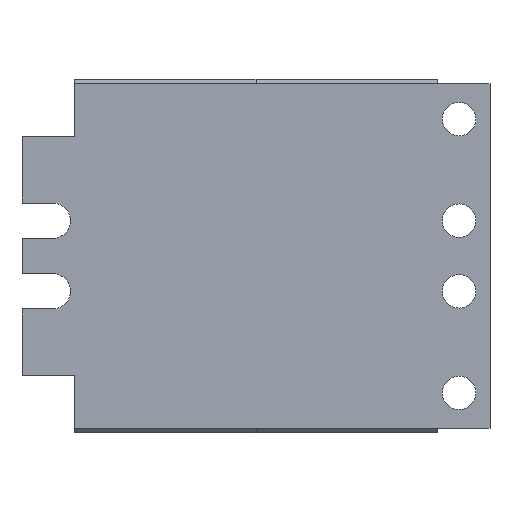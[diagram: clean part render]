
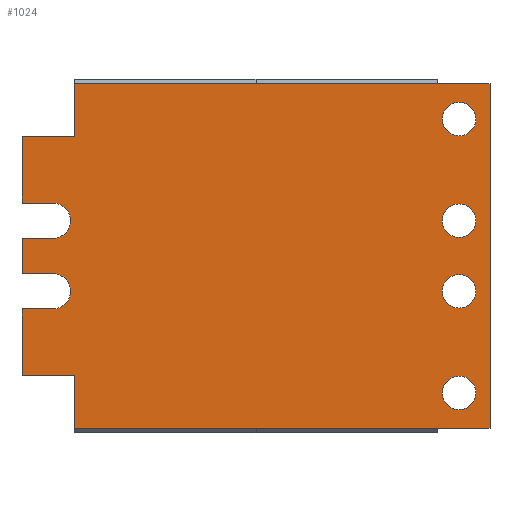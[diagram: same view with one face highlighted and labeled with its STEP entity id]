
A CAD part, front view. The second image highlights one B-rep face of the part: STEP entity #1024.
In plain terms, the highlighted planar face has unit normal (0, -1, 0).
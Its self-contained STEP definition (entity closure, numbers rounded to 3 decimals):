
#30=CIRCLE('',#1094,1.9);
#31=CIRCLE('',#1095,1.9);
#32=CIRCLE('',#1096,1.9);
#33=CIRCLE('',#1097,1.9);
#34=CIRCLE('',#1098,2.);
#35=CIRCLE('',#1099,2.);
#126=ORIENTED_EDGE('',*,*,#401,.F.);
#127=ORIENTED_EDGE('',*,*,#402,.F.);
#128=ORIENTED_EDGE('',*,*,#403,.F.);
#129=ORIENTED_EDGE('',*,*,#404,.F.);
#130=ORIENTED_EDGE('',*,*,#365,.T.);
#131=ORIENTED_EDGE('',*,*,#405,.F.);
#132=ORIENTED_EDGE('',*,*,#347,.F.);
#133=ORIENTED_EDGE('',*,*,#333,.T.);
#134=ORIENTED_EDGE('',*,*,#406,.F.);
#135=ORIENTED_EDGE('',*,*,#407,.F.);
#136=ORIENTED_EDGE('',*,*,#408,.F.);
#137=ORIENTED_EDGE('',*,*,#409,.T.);
#138=ORIENTED_EDGE('',*,*,#410,.F.);
#139=ORIENTED_EDGE('',*,*,#411,.F.);
#140=ORIENTED_EDGE('',*,*,#412,.F.);
#141=ORIENTED_EDGE('',*,*,#413,.T.);
#142=ORIENTED_EDGE('',*,*,#414,.F.);
#143=ORIENTED_EDGE('',*,*,#415,.F.);
#144=ORIENTED_EDGE('',*,*,#416,.F.);
#145=ORIENTED_EDGE('',*,*,#343,.T.);
#333=EDGE_CURVE('',#480,#479,#579,.T.);
#343=EDGE_CURVE('',#477,#489,#589,.T.);
#347=EDGE_CURVE('',#480,#492,#593,.T.);
#365=EDGE_CURVE('',#489,#508,#611,.T.);
#401=EDGE_CURVE('',#536,#536,#30,.T.);
#402=EDGE_CURVE('',#537,#537,#31,.T.);
#403=EDGE_CURVE('',#538,#538,#32,.T.);
#404=EDGE_CURVE('',#539,#539,#33,.T.);
#405=EDGE_CURVE('',#492,#508,#643,.T.);
#406=EDGE_CURVE('',#540,#479,#644,.T.);
#407=EDGE_CURVE('',#541,#540,#645,.T.);
#408=EDGE_CURVE('',#542,#541,#646,.T.);
#409=EDGE_CURVE('',#542,#543,#34,.T.);
#410=EDGE_CURVE('',#544,#543,#647,.T.);
#411=EDGE_CURVE('',#545,#544,#648,.T.);
#412=EDGE_CURVE('',#546,#545,#649,.T.);
#413=EDGE_CURVE('',#546,#547,#35,.T.);
#414=EDGE_CURVE('',#548,#547,#650,.T.);
#415=EDGE_CURVE('',#549,#548,#651,.T.);
#416=EDGE_CURVE('',#477,#549,#652,.T.);
#477=VERTEX_POINT('',#1415);
#479=VERTEX_POINT('',#1419);
#480=VERTEX_POINT('',#1421);
#489=VERTEX_POINT('',#1439);
#492=VERTEX_POINT('',#1448);
#508=VERTEX_POINT('',#1482);
#536=VERTEX_POINT('',#1551);
#537=VERTEX_POINT('',#1553);
#538=VERTEX_POINT('',#1555);
#539=VERTEX_POINT('',#1557);
#540=VERTEX_POINT('',#1560);
#541=VERTEX_POINT('',#1562);
#542=VERTEX_POINT('',#1564);
#543=VERTEX_POINT('',#1566);
#544=VERTEX_POINT('',#1568);
#545=VERTEX_POINT('',#1570);
#546=VERTEX_POINT('',#1572);
#547=VERTEX_POINT('',#1574);
#548=VERTEX_POINT('',#1576);
#549=VERTEX_POINT('',#1578);
#579=LINE('',#1420,#713);
#589=LINE('',#1440,#723);
#593=LINE('',#1447,#727);
#611=LINE('',#1483,#745);
#643=LINE('',#1558,#777);
#644=LINE('',#1559,#778);
#645=LINE('',#1561,#779);
#646=LINE('',#1563,#780);
#647=LINE('',#1567,#781);
#648=LINE('',#1569,#782);
#649=LINE('',#1571,#783);
#650=LINE('',#1575,#784);
#651=LINE('',#1577,#785);
#652=LINE('',#1579,#786);
#713=VECTOR('',#1154,1000.);
#723=VECTOR('',#1164,1000.);
#727=VECTOR('',#1170,1000.);
#745=VECTOR('',#1190,1000.);
#777=VECTOR('',#1246,1000.);
#778=VECTOR('',#1247,1000.);
#779=VECTOR('',#1248,1000.);
#780=VECTOR('',#1249,1000.);
#781=VECTOR('',#1252,1000.);
#782=VECTOR('',#1253,1000.);
#783=VECTOR('',#1254,1000.);
#784=VECTOR('',#1257,1000.);
#785=VECTOR('',#1258,1000.);
#786=VECTOR('',#1259,1000.);
#854=EDGE_LOOP('',(#126));
#855=EDGE_LOOP('',(#127));
#856=EDGE_LOOP('',(#128));
#857=EDGE_LOOP('',(#129));
#858=EDGE_LOOP('',(#130,#131,#132,#133,#134,#135,#136,#137,#138,#139,#140,
#141,#142,#143,#144,#145));
#918=FACE_BOUND('',#854,.T.);
#919=FACE_BOUND('',#855,.T.);
#920=FACE_BOUND('',#856,.T.);
#921=FACE_BOUND('',#857,.T.);
#922=FACE_BOUND('',#858,.T.);
#978=PLANE('',#1093);
#1024=ADVANCED_FACE('',(#918,#919,#920,#921,#922),#978,.F.);
#1093=AXIS2_PLACEMENT_3D('',#1549,#1236,#1237);
#1094=AXIS2_PLACEMENT_3D('',#1550,#1238,#1239);
#1095=AXIS2_PLACEMENT_3D('',#1552,#1240,#1241);
#1096=AXIS2_PLACEMENT_3D('',#1554,#1242,#1243);
#1097=AXIS2_PLACEMENT_3D('',#1556,#1244,#1245);
#1098=AXIS2_PLACEMENT_3D('',#1565,#1250,#1251);
#1099=AXIS2_PLACEMENT_3D('',#1573,#1255,#1256);
#1154=DIRECTION('',(0.,0.,-1.));
#1164=DIRECTION('',(0.,0.,-1.));
#1170=DIRECTION('',(1.,0.,0.));
#1190=DIRECTION('',(1.,0.,0.));
#1236=DIRECTION('',(0.,1.,0.));
#1237=DIRECTION('',(0.,0.,1.));
#1238=DIRECTION('',(0.,-1.,0.));
#1239=DIRECTION('',(0.,0.,-1.));
#1240=DIRECTION('',(0.,-1.,0.));
#1241=DIRECTION('',(0.,0.,-1.));
#1242=DIRECTION('',(0.,-1.,0.));
#1243=DIRECTION('',(0.,0.,-1.));
#1244=DIRECTION('',(0.,-1.,0.));
#1245=DIRECTION('',(0.,0.,-1.));
#1246=DIRECTION('',(0.,0.,-1.));
#1247=DIRECTION('',(1.,0.,0.));
#1248=DIRECTION('',(0.,0.,1.));
#1249=DIRECTION('',(-1.,0.,0.));
#1250=DIRECTION('',(0.,1.,0.));
#1251=DIRECTION('',(1.,0.,0.));
#1252=DIRECTION('',(1.,0.,0.));
#1253=DIRECTION('',(0.,0.,1.));
#1254=DIRECTION('',(-1.,0.,0.));
#1255=DIRECTION('',(0.,1.,0.));
#1256=DIRECTION('',(1.,0.,0.));
#1257=DIRECTION('',(1.,0.,0.));
#1258=DIRECTION('',(0.,0.,1.));
#1259=DIRECTION('',(-1.,0.,0.));
#1415=CARTESIAN_POINT('',(0.,0.,-13.5));
#1419=CARTESIAN_POINT('',(0.,0.,13.5));
#1420=CARTESIAN_POINT('',(0.,0.,19.5));
#1421=CARTESIAN_POINT('',(0.,0.,19.5));
#1439=CARTESIAN_POINT('',(0.,0.,-19.5));
#1440=CARTESIAN_POINT('',(0.,0.,19.5));
#1447=CARTESIAN_POINT('',(0.,0.,19.5));
#1448=CARTESIAN_POINT('',(47.,0.,19.5));
#1482=CARTESIAN_POINT('',(47.,0.,-19.5));
#1483=CARTESIAN_POINT('',(0.,0.,-19.5));
#1549=CARTESIAN_POINT('',(0.,0.,19.5));
#1550=CARTESIAN_POINT('',(43.5,0.,-15.5));
#1551=CARTESIAN_POINT('',(43.5,0.,-17.4));
#1552=CARTESIAN_POINT('',(43.5,0.,15.5));
#1553=CARTESIAN_POINT('',(43.5,0.,13.6));
#1554=CARTESIAN_POINT('',(43.5,0.,-4.));
#1555=CARTESIAN_POINT('',(43.5,0.,-5.9));
#1556=CARTESIAN_POINT('',(43.5,0.,4.));
#1557=CARTESIAN_POINT('',(43.5,0.,2.1));
#1558=CARTESIAN_POINT('',(47.,0.,19.5));
#1559=CARTESIAN_POINT('',(-6.,0.,13.5));
#1560=CARTESIAN_POINT('',(-6.,0.,13.5));
#1561=CARTESIAN_POINT('',(-6.,0.,6.));
#1562=CARTESIAN_POINT('',(-6.,0.,6.));
#1563=CARTESIAN_POINT('',(-2.5,0.,6.));
#1564=CARTESIAN_POINT('',(-2.5,0.,6.));
#1565=CARTESIAN_POINT('',(-2.5,0.,4.));
#1566=CARTESIAN_POINT('',(-2.5,0.,2.));
#1567=CARTESIAN_POINT('',(-6.,0.,2.));
#1568=CARTESIAN_POINT('',(-6.,0.,2.));
#1569=CARTESIAN_POINT('',(-6.,0.,-2.));
#1570=CARTESIAN_POINT('',(-6.,0.,-2.));
#1571=CARTESIAN_POINT('',(-2.5,0.,-2.));
#1572=CARTESIAN_POINT('',(-2.5,0.,-2.));
#1573=CARTESIAN_POINT('',(-2.5,0.,-4.));
#1574=CARTESIAN_POINT('',(-2.5,0.,-6.));
#1575=CARTESIAN_POINT('',(-6.,0.,-6.));
#1576=CARTESIAN_POINT('',(-6.,0.,-6.));
#1577=CARTESIAN_POINT('',(-6.,0.,-13.5));
#1578=CARTESIAN_POINT('',(-6.,0.,-13.5));
#1579=CARTESIAN_POINT('',(0.,0.,-13.5));
